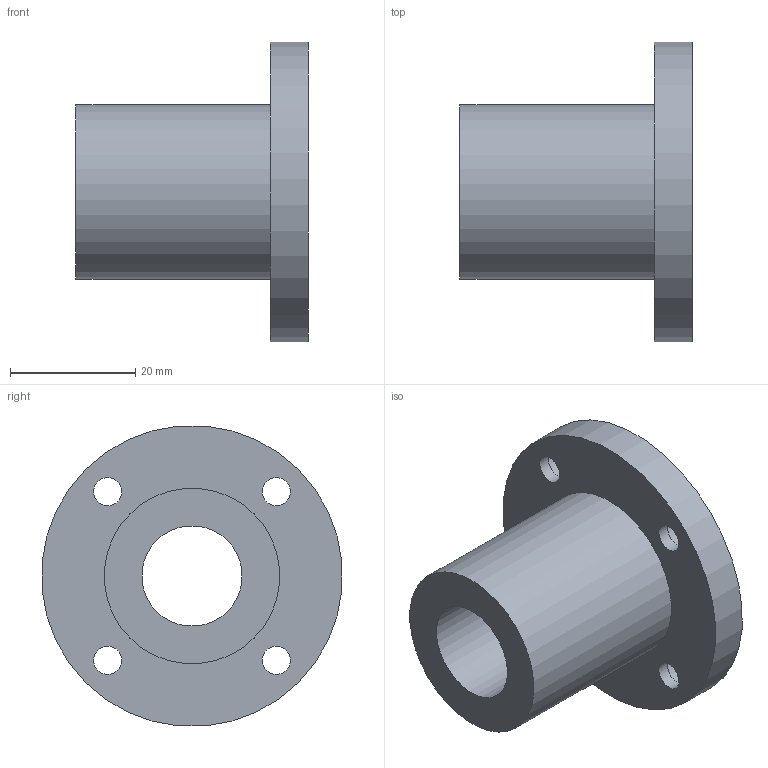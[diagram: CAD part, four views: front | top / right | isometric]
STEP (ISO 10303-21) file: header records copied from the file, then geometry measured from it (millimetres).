
FILE_DESCRIPTION(/* description */ (''),/* implementation_level */ '2;1');
FILE_NAME(/* name */ 'LMF16UU',/* time_stamp */ '2019-07-03T09:08:09+02:00',/* author */ ('VĂ©gh MĂˇtĂ©'),/* organization */ ('Bearing Kft'),/* preprocessor_version */ 'ST-DEVELOPER v16.7',/* originating_system */ 'DEX',/* authorisation */ $);
FILE_SCHEMA (('AUTOMOTIVE_DESIGN {1 0 10303 214 3 1 1}'));
Length unit declared in the file: millimetre
Products named in the file (1): LMF16UU
Bounding box: 37 x 47.82 x 47.82 mm (x, y, z)
Volume: 21658.3 mm3; surface area: 9094.5 mm2
Topology: 1 solids, 1 shells, 318 faces, 795 edges, 530 vertices
Faces by surface type: plane 245, bspline 59, cylinder 14
Full cylindrical faces by diameter (mm): 4.5 x4, 7.5 x4, 16 x1, 28 x1, 48 x1
Entity records: 12158 total; most frequent: CARTESIAN_POINT 4910, ORIENTED_EDGE 1564, DIRECTION 1212, EDGE_CURVE 782, LINE 636, VECTOR 636, VERTEX_POINT 530, EDGE_LOOP 392
